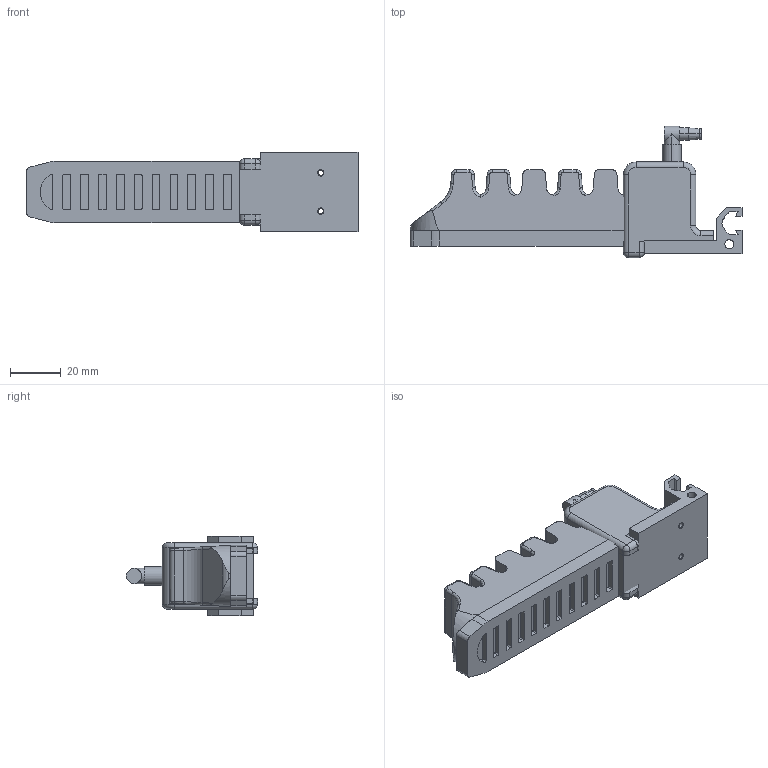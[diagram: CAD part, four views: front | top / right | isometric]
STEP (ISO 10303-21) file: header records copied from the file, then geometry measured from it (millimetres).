
FILE_DESCRIPTION (( 'STEP AP214' ), '1' );
FILE_NAME ('GFM-A6V5.STEP', '2019-12-04T02:52:05', ( '微软用户' ), ( '微软中国' ), 'SwSTEP 2.0', 'SolidWorks 2016', '' );
FILE_SCHEMA (( 'AUTOMOTIVE_DESIGN' ));
Length unit declared in the file: millimetre
Products named in the file (1): GFM-A6V5
Bounding box: 130.21 x 51.5 x 31 mm (x, y, z)
Volume: 78872 mm3; surface area: 27717.9 mm2
Topology: 4 solids, 4 shells, 340 faces, 861 edges, 542 vertices
Faces by surface type: cylinder 153, plane 139, bspline 24, cone 14, torus 6, sphere 4
Entity records: 15644 total; most frequent: CARTESIAN_POINT 3789, ORIENTED_EDGE 1722, DIRECTION 1653, EDGE_CURVE 861, AXIS2_PLACEMENT_3D 584, VERTEX_POINT 542, VECTOR 485, LINE 485
